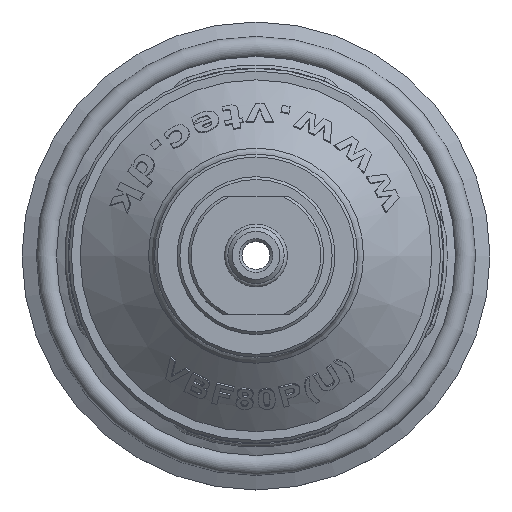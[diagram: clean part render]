
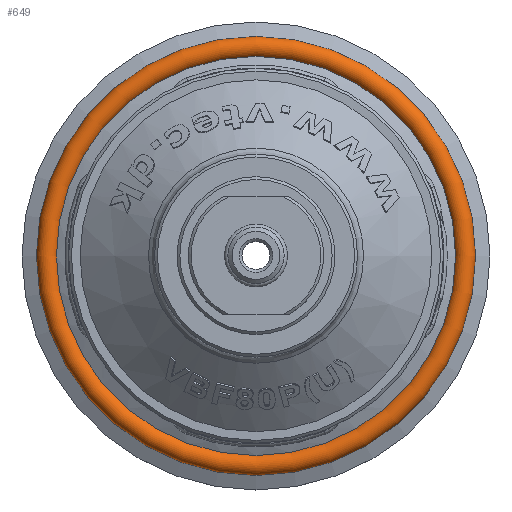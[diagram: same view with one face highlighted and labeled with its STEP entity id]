
A CAD part, top view. The second image highlights one B-rep face of the part: STEP entity #649.
In plain terms, the highlighted toroidal (fillet/blend) face has major radius 37.069 mm and minor radius 1.871 mm.
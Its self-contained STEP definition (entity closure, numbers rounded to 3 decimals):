
#649 = ADVANCED_FACE( '', ( #1450, #1451 ), #1452, .T. );
#1450 = FACE_OUTER_BOUND( '', #5782, .T. );
#1451 = FACE_OUTER_BOUND( '', #5783, .T. );
#1452 = TOROIDAL_SURFACE( '', #5784, 37.069, 1.871 );
#5782 = EDGE_LOOP( '', ( #9738 ) );
#5783 = EDGE_LOOP( '', ( #9739 ) );
#5784 = AXIS2_PLACEMENT_3D( '', #9740, #9741, #9742 );
#9738 = ORIENTED_EDGE( '', *, *, #10618, .F. );
#9739 = ORIENTED_EDGE( '', *, *, #10544, .T. );
#9740 = CARTESIAN_POINT( '', ( 0., 0., -20.793 ) );
#9741 = DIRECTION( '', ( 0., 0., 1. ) );
#9742 = DIRECTION( '', ( 1., 0., 0. ) );
#10544 = EDGE_CURVE( '', #11596, #11596, #11597, .T. );
#10618 = EDGE_CURVE( '', #11720, #11720, #11721, .T. );
#11596 = VERTEX_POINT( '', #14070 );
#11597 = CIRCLE( '', #14071, 38.736 );
#11720 = VERTEX_POINT( '', #15102 );
#11721 = CIRCLE( '', #15103, 35.402 );
#14070 = CARTESIAN_POINT( '', ( 38.736, 0., -21.642 ) );
#14071 = AXIS2_PLACEMENT_3D( '', #18069, #18070, #18071 );
#15102 = CARTESIAN_POINT( '', ( 35.402, 0., -19.943 ) );
#15103 = AXIS2_PLACEMENT_3D( '', #18102, #18103, #18104 );
#18069 = CARTESIAN_POINT( '', ( 0., 0., -21.642 ) );
#18070 = DIRECTION( '', ( 0., 0., 1. ) );
#18071 = DIRECTION( '', ( 1., 0., 0. ) );
#18102 = CARTESIAN_POINT( '', ( 0., 0., -19.943 ) );
#18103 = DIRECTION( '', ( 0., 0., 1. ) );
#18104 = DIRECTION( '', ( 1., 0., 0. ) );
